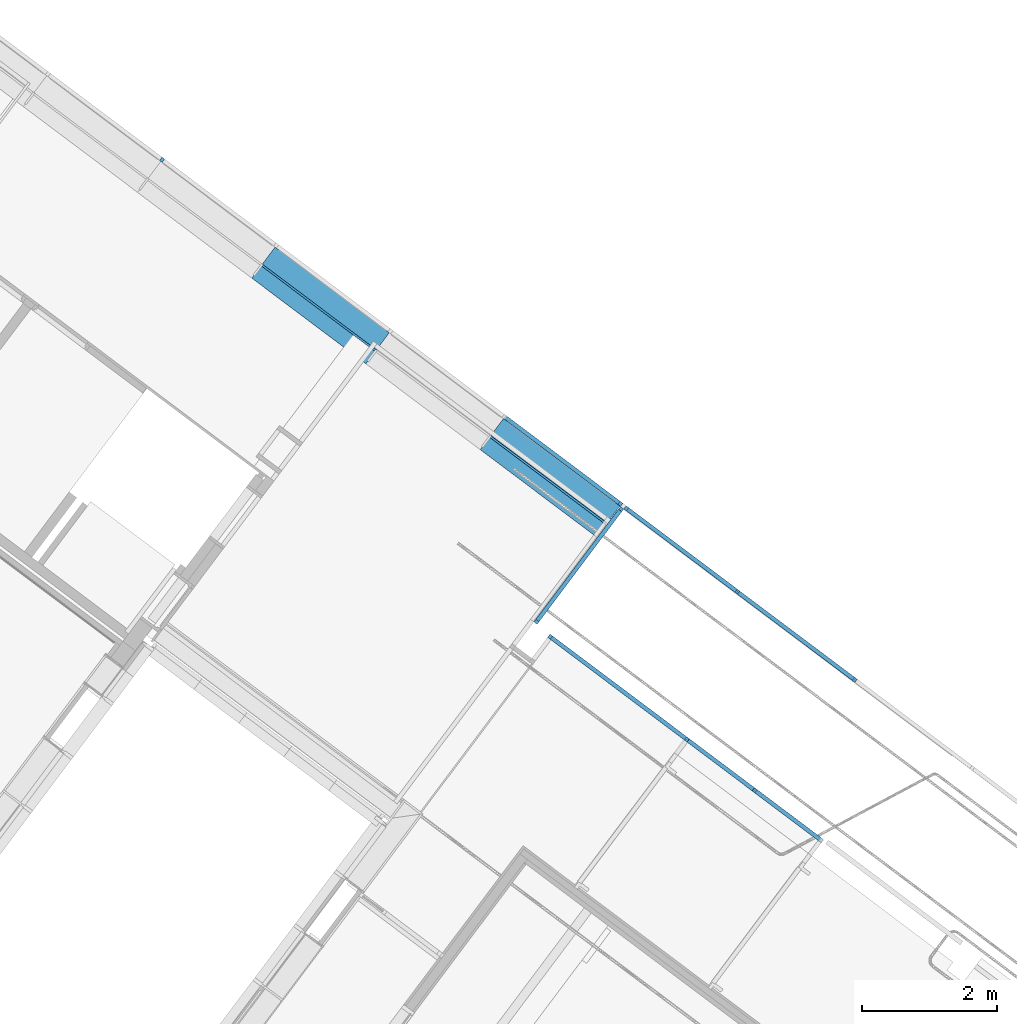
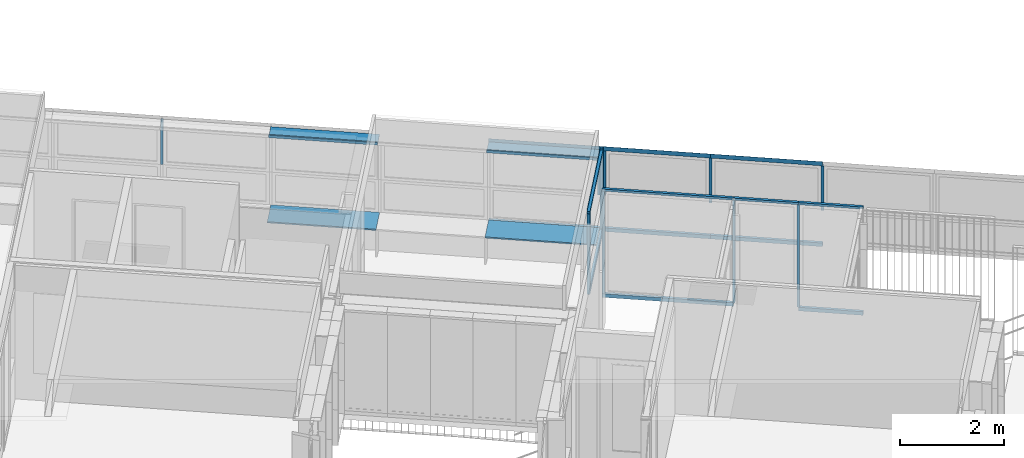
# One storey, part 70 of 243: 27 members, 5 elements without a shape of their own.
"""IFC2X3 building model written with IfcOpenShell, lengths in metres."""

from ifc_helpers import new_model, entity, si_unit, converted_unit, derived_unit, direction, frame, frame_2d, origin, origin_2d_with_axis, place, context, subcontext, project, spatial, polyline, rectangle, outline, extrude, source, transform, mapped, material, type_object, type_shapes, element, aggregate, save


model = new_model("IFC2X3")

# Units and contexts
model_context = context("Model", 3, precision=1e-05, world=origin(), true_north=direction((6.123031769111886e-17, 1.0)))
body_context = subcontext(model_context, "Body", "Model", "MODEL_VIEW")
ifc_project = project(units=[si_unit("LENGTHUNIT", "METRE"), si_unit("AREAUNIT", "SQUARE_METRE"), si_unit("VOLUMEUNIT", "CUBIC_METRE"), converted_unit("PLANEANGLEUNIT", "DEGREE", entity("IfcRatioMeasure", 0.017453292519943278), si_unit("PLANEANGLEUNIT", "RADIAN"), dimensions=[0, 0, 0, 0, 0, 0, 0]), si_unit("MASSUNIT", "GRAM", prefix="KILO"), derived_unit("MASSDENSITYUNIT", [(si_unit("MASSUNIT", "GRAM", prefix="KILO"), 1), (si_unit("LENGTHUNIT", "METRE"), -3)]), derived_unit("IONCONCENTRATIONUNIT", [(si_unit("MASSUNIT", "GRAM", prefix="KILO"), 1), (si_unit("LENGTHUNIT", "METRE"), -3)]), derived_unit("MOMENTOFINERTIAUNIT", [(si_unit("LENGTHUNIT", "METRE"), 4)]), si_unit("TIMEUNIT", "SECOND"), si_unit("FREQUENCYUNIT", "HERTZ"), si_unit("THERMODYNAMICTEMPERATUREUNIT", "DEGREE_CELSIUS"), derived_unit("THERMALTRANSMITTANCEUNIT", [(si_unit("MASSUNIT", "GRAM", prefix="KILO"), 1), (si_unit("THERMODYNAMICTEMPERATUREUNIT", "KELVIN"), -1), (si_unit("TIMEUNIT", "SECOND"), -3)]), derived_unit("THERMALCONDUCTANCEUNIT", [(si_unit("MASSUNIT", "GRAM", prefix="KILO"), 1), (si_unit("THERMODYNAMICTEMPERATUREUNIT", "KELVIN"), -1), (si_unit("TIMEUNIT", "SECOND"), -3), (si_unit("LENGTHUNIT", "METRE"), 1)]), derived_unit("VOLUMETRICFLOWRATEUNIT", [(si_unit("LENGTHUNIT", "METRE"), 3), (si_unit("TIMEUNIT", "SECOND"), -1)]), derived_unit("MASSFLOWRATEUNIT", [(si_unit("MASSUNIT", "GRAM", prefix="KILO"), 1), (si_unit("TIMEUNIT", "SECOND"), -1)]), derived_unit("ROTATIONALFREQUENCYUNIT", [(si_unit("TIMEUNIT", "SECOND"), -1)]), si_unit("ELECTRICCURRENTUNIT", "AMPERE"), si_unit("ELECTRICVOLTAGEUNIT", "VOLT"), si_unit("POWERUNIT", "WATT"), si_unit("FORCEUNIT", "NEWTON", prefix="KILO"), si_unit("ILLUMINANCEUNIT", "LUX"), si_unit("LUMINOUSFLUXUNIT", "LUMEN"), si_unit("LUMINOUSINTENSITYUNIT", "CANDELA"), derived_unit("USERDEFINED", [(si_unit("MASSUNIT", "GRAM", prefix="KILO"), -1), (si_unit("LENGTHUNIT", "METRE"), -2), (si_unit("TIMEUNIT", "SECOND"), 3), (si_unit("LUMINOUSFLUXUNIT", "LUMEN"), 1)]), derived_unit("USERDEFINED", [(si_unit("MASSUNIT", "GRAM", prefix="KILO"), 1), (si_unit("TIMEUNIT", "SECOND"), -3), (si_unit("LENGTHUNIT", "METRE"), 3), (si_unit("ELECTRICCURRENTUNIT", "AMPERE"), -2)]), derived_unit("SOUNDPOWERUNIT", [(si_unit("MASSUNIT", "GRAM", prefix="KILO"), 1), (si_unit("TIMEUNIT", "SECOND"), -3), (si_unit("LENGTHUNIT", "METRE"), 2)]), derived_unit("SOUNDPRESSUREUNIT", [(si_unit("MASSUNIT", "GRAM", prefix="KILO"), 1), (si_unit("LENGTHUNIT", "METRE"), -1), (si_unit("TIMEUNIT", "SECOND"), -2)]), derived_unit("LINEARVELOCITYUNIT", [(si_unit("LENGTHUNIT", "METRE"), 1), (si_unit("TIMEUNIT", "SECOND"), -1)]), si_unit("PRESSUREUNIT", "PASCAL"), derived_unit("USERDEFINED", [(si_unit("MASSUNIT", "GRAM", prefix="KILO"), 1), (si_unit("LENGTHUNIT", "METRE"), -2), (si_unit("TIMEUNIT", "SECOND"), -2)]), derived_unit("LINEARFORCEUNIT", [(si_unit("MASSUNIT", "GRAM", prefix="KILO"), 1), (si_unit("TIMEUNIT", "SECOND"), -2)]), derived_unit("PLANARFORCEUNIT", [(si_unit("MASSUNIT", "GRAM", prefix="KILO"), 1), (si_unit("LENGTHUNIT", "METRE"), -1), (si_unit("TIMEUNIT", "SECOND"), -2)]), derived_unit("SPECIFICHEATCAPACITYUNIT", [(si_unit("THERMODYNAMICTEMPERATUREUNIT", "KELVIN"), -1), (si_unit("LENGTHUNIT", "METRE"), 2), (si_unit("TIMEUNIT", "SECOND"), -2)]), derived_unit("HEATINGVALUEUNIT", [(si_unit("LENGTHUNIT", "METRE"), 2), (si_unit("TIMEUNIT", "SECOND"), -2)]), derived_unit("VAPORPERMEABILITYUNIT", [(si_unit("LENGTHUNIT", "METRE"), -1), (si_unit("TIMEUNIT", "SECOND"), 1)]), derived_unit("DYNAMICVISCOSITYUNIT", [(si_unit("MASSUNIT", "GRAM", prefix="KILO"), 1), (si_unit("TIMEUNIT", "SECOND"), -1), (si_unit("LENGTHUNIT", "METRE"), -1)]), derived_unit("THERMALEXPANSIONCOEFFICIENTUNIT", [(si_unit("THERMODYNAMICTEMPERATUREUNIT", "KELVIN"), -1)]), derived_unit("MODULUSOFELASTICITYUNIT", [(si_unit("MASSUNIT", "GRAM", prefix="KILO"), 1), (si_unit("LENGTHUNIT", "METRE"), -1), (si_unit("TIMEUNIT", "SECOND"), -2)]), derived_unit("ISOTHERMALMOISTURECAPACITYUNIT", [(si_unit("LENGTHUNIT", "METRE"), 3), (si_unit("MASSUNIT", "GRAM", prefix="KILO"), -1)]), derived_unit("MOISTUREDIFFUSIVITYUNIT", [(si_unit("TIMEUNIT", "SECOND"), -1), (si_unit("LENGTHUNIT", "METRE"), 2)])], contexts=[model_context])

# Site, building, storey
site_placement = place(None, frame((0.0, 0.0, 235.0), z_axis=(0.0, 0.0, 1.0), x_axis=(-0.7996477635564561, 0.6004693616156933, 0.0)))
site = spatial("IfcSite", under=ifc_project, at=site_placement, Name="Default", CompositionType="ELEMENT")
building_placement = place(site_placement, origin())
building = spatial("IfcBuilding", under=site, at=building_placement, CompositionType="ELEMENT")
storey_placement = place(building_placement, origin())
storey = spatial("IfcBuildingStorey", under=building, at=storey_placement, Name="P0- Escola", CompositionType="ELEMENT", Elevation=0.0)

# Curtain wall, members
curtain_wall_type_1 = type_object("IfcCurtainWallType", Name="Muro cortina:MC- EXT- MC6", PredefinedType="NOTDEFINED")
curtain_wall_1_placement = place(storey_placement, origin())
curtain_wall_1 = element("IfcCurtainWall", 1, at=curtain_wall_1_placement, inside=storey, type_object=curtain_wall_type_1, Name="Muro cortina:MC- EXT- MC6", ObjectType="Muro cortina:MC- EXT- MC6")
ifc_material_1 = material(Name="_Alumini- T1- Perfil")
member_type_1 = type_object("IfcMemberType", Name="Montante rectangular:MC- Alu- 52x80 cm- Fa pista- inferior", PredefinedType="MULLION", material=ifc_material_1)
shared_shape_1 = source(origin(), body_context, "Body", "SweptSolid", [
    extrude(rectangle(XDim=0.06000000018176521, YDim=0.085, at=origin_2d_with_axis()), frame((-0.0425, -0.030000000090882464, -2.170995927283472), z_axis=(0.0, 0.0, 1.0), x_axis=(0.0, -1.0, 0.0)), (0.0, 0.0, 1.0), 2.170995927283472),
])
type_shapes(member_type_1, [shared_shape_1])
member_1_placement = place(curtain_wall_1_placement, frame((36.64514768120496, -42.34019175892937, 0.6000000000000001), z_axis=(-1.0, 0.0, 0.0), x_axis=(0.0, 0.0, -1.0)))
member_1 = element("IfcMember", 2, at=member_1_placement, type_object=member_type_1, material=ifc_material_1, Name="Montante rectangular:MC- Alu- 52x80 cm- Fa pista- inferior", ObjectType="Montante rectangular:MC- Alu- 52x80 cm- Fa pista- inferior", context=body_context, shape_type="MappedRepresentation", body=[
    mapped(shared_shape_1, transform((0.0, 0.0, 0.0), scale=1.0)),
])
member_type_2 = type_object("IfcMemberType", Name="Montante rectangular:MC- Alu- 50x60 cm- Fa pista- Centre", PredefinedType="MULLION", material=ifc_material_1)
shared_shape_2 = source(origin(), body_context, "Body", "SweptSolid", [
    extrude(rectangle(XDim=0.0600000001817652, YDim=0.05, at=frame_2d((-8.673617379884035e-18, 0.0), x_axis=(1.0, 0.0))), frame((-0.025, -0.030000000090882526, -1.0475000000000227), z_axis=(0.0, 0.0, 1.0), x_axis=(0.0, -1.0, 0.0)), (0.0, 0.0, 1.0), 1.0475000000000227),
])
type_shapes(member_type_2, [shared_shape_2])
member_2_placement = place(curtain_wall_1_placement, frame((36.64514768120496, -42.34019175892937, 2.502500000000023), z_axis=(0.0, 0.0, 1.0), x_axis=(-1.0, 0.0, 0.0)))
member_2 = element("IfcMember", 3, at=member_2_placement, type_object=member_type_2, material=ifc_material_1, Name="Montante rectangular:MC- Alu- 50x60 cm- Fa pista- Centre", ObjectType="Montante rectangular:MC- Alu- 50x60 cm- Fa pista- Centre", context=body_context, shape_type="MappedRepresentation", body=[
    mapped(shared_shape_2, transform((0.0, 0.0, 0.0), scale=1.0)),
])
member_type_3 = type_object("IfcMemberType", Name="Montante rectangular:MC- Alu- 140x52,5 cm- Fa pista- Superior", PredefinedType="MULLION", material=ifc_material_1)
shared_shape_3 = source(origin(), body_context, "Body", "SweptSolid", [
    extrude(outline(polyline([(-0.03933333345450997, -0.04916666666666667), (0.02066666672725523, -0.04916666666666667), (0.020666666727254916, 0.048333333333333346), (0.018666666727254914, 0.04833333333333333), (0.018666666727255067, 0.00083333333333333), (-0.03933333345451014, 0.00083333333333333), (-0.03933333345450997, -0.04916666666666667)])), frame((-0.048333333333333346, -0.03933333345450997, -2.170995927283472), z_axis=(0.0, 0.0, 1.0), x_axis=(0.0, -1.0, 0.0)), (0.0, 0.0, 1.0), 2.170995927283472),
])
type_shapes(member_type_3, [shared_shape_3])
member_3_placement = place(curtain_wall_1_placement, frame((38.81614360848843, -42.34019175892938, 2.6000000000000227), z_axis=(1.0, 0.0, 0.0), x_axis=(0.0, 0.0, 1.0)))
member_3 = element("IfcMember", 4, at=member_3_placement, type_object=member_type_3, material=ifc_material_1, Name="Montante rectangular:MC- Alu- 140x52,5 cm- Fa pista- Superior", ObjectType="Montante rectangular:MC- Alu- 140x52,5 cm- Fa pista- Superior", context=body_context, shape_type="MappedRepresentation", body=[
    mapped(shared_shape_3, transform((0.0, 0.0, 0.0), scale=1.0)),
])
member_type_4 = type_object("IfcMemberType", Name="Montante rectangular:MC- Alu- 50x60 cm- Fa pista- Centre", PredefinedType="MULLION", material=ifc_material_1)
shared_shape_4 = source(origin(), body_context, "Body", "SweptSolid", [
    extrude(rectangle(XDim=0.0600000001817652, YDim=0.05, at=frame_2d((8.673617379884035e-18, 0.0), x_axis=(1.0, 0.0))), frame((0.0, -0.030000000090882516, -1.0475000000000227), z_axis=(0.0, 0.0, 1.0), x_axis=(0.0, -1.0, 0.0)), (0.0, 0.0, 1.0), 1.0475000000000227),
])
type_shapes(member_type_4, [shared_shape_4])
member_4_placement = place(curtain_wall_1_placement, frame((45.167143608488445, -42.3401917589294, 1.455), z_axis=(0.0, 0.0, -1.0), x_axis=(1.0, 0.0, 0.0)))
member_4 = element("IfcMember", 5, at=member_4_placement, type_object=member_type_4, material=ifc_material_1, Name="Montante rectangular:MC- Alu- 50x60 cm- Fa pista- Centre", ObjectType="Montante rectangular:MC- Alu- 50x60 cm- Fa pista- Centre", context=body_context, shape_type="MappedRepresentation", body=[
    mapped(shared_shape_4, transform((0.0, 0.0, 0.0), scale=1.0)),
])
aggregate(curtain_wall_1, [member_1, member_2, member_3, member_4])

curtain_wall_2_placement = place(storey_placement, origin())
curtain_wall_2 = element("IfcCurtainWall", 6, at=curtain_wall_2_placement, inside=storey, type_object=curtain_wall_type_1, Name="Muro cortina:MC- EXT- MC6", ObjectType="Muro cortina:MC- EXT- MC6")
member_type_5 = type_object("IfcMemberType", Name="Montante rectangular:MC- Alu- 140x52,5 cm- Fa pista- Superior", PredefinedType="MULLION", material=ifc_material_1)
shared_shape_5 = source(origin(), body_context, "Body", "SweptSolid", [
    extrude(outline(polyline([(-0.02066666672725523, -0.04916666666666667), (0.03933333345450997, -0.04916666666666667), (0.039333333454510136, 0.00083333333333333), (-0.018666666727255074, 0.00083333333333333), (-0.01866666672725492, 0.04833333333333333), (-0.020666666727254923, 0.048333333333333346), (-0.02066666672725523, -0.04916666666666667)])), frame((-0.048333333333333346, 0.03933333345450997, -2.089999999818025), z_axis=(0.0, 0.0, 1.0), x_axis=(0.0, -1.0, 0.0)), (0.0, 0.0, 1.0), 2.089999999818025),
])
type_shapes(member_type_5, [shared_shape_5])
member_5_placement = place(curtain_wall_2_placement, frame((36.5851476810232, -40.14019175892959, 2.6000000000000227), z_axis=(0.0, 1.0, 0.0), x_axis=(0.0, 0.0, 1.0)))
member_5 = element("IfcMember", 7, at=member_5_placement, type_object=member_type_5, material=ifc_material_1, Name="Montante rectangular:MC- Alu- 140x52,5 cm- Fa pista- Superior", ObjectType="Montante rectangular:MC- Alu- 140x52,5 cm- Fa pista- Superior", context=body_context, shape_type="MappedRepresentation", body=[
    mapped(shared_shape_5, transform((0.0, 0.0, 0.0), scale=1.0)),
])
member_type_6 = type_object("IfcMemberType", Name="Montante rectangular:MC- Alu- 52x80 cm- Fa pista- inferior", PredefinedType="MULLION", material=ifc_material_1)
shared_shape_6 = source(origin(), body_context, "Body", "SweptSolid", [
    extrude(rectangle(XDim=0.06000000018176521, YDim=0.08500000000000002, at=frame_2d((-5.204170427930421e-18, -6.938893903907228e-18), x_axis=(1.0, 0.0))), frame((-0.0425, 0.030000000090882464, -2.0399999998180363), z_axis=(0.0, 0.0, 1.0), x_axis=(0.0, -1.0, 0.0)), (0.0, 0.0, 1.0), 2.0399999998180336),
])
type_shapes(member_type_6, [shared_shape_6])
member_6_placement = place(curtain_wall_2_placement, frame((36.585147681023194, -42.230191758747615, 0.6000000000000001), z_axis=(0.0, -1.0, 0.0), x_axis=(0.0, 0.0, -1.0)))
member_6 = element("IfcMember", 8, at=member_6_placement, type_object=member_type_6, material=ifc_material_1, Name="Montante rectangular:MC- Alu- 52x80 cm- Fa pista- inferior", ObjectType="Montante rectangular:MC- Alu- 52x80 cm- Fa pista- inferior", context=body_context, shape_type="MappedRepresentation", body=[
    mapped(shared_shape_6, transform((0.0, 0.0, 0.0), scale=1.0)),
])
member_type_7 = type_object("IfcMemberType", Name="Montante rectangular:MC- Alu- 50x60 cm- Fa pista- Centre", PredefinedType="MULLION", material=ifc_material_1)
shared_shape_7 = source(origin(), body_context, "Body", "SweptSolid", [
    extrude(rectangle(XDim=0.060000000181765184, YDim=0.05, at=frame_2d((3.469446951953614e-18, 0.0), x_axis=(1.0, 0.0))), frame((-0.025, 0.030000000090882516, -1.902500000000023), z_axis=(0.0, 0.0, 1.0), x_axis=(0.0, -1.0, 0.0)), (0.0, 0.0, 1.0), 1.902500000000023),
])
type_shapes(member_type_7, [shared_shape_7])
member_7_placement = place(curtain_wall_2_placement, frame((36.5851476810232, -40.14019175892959, 0.6000000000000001), z_axis=(0.0, 0.0, -1.0), x_axis=(0.0, 1.0, 0.0)))
member_7 = element("IfcMember", 9, at=member_7_placement, type_object=member_type_7, material=ifc_material_1, Name="Montante rectangular:MC- Alu- 50x60 cm- Fa pista- Centre", ObjectType="Montante rectangular:MC- Alu- 50x60 cm- Fa pista- Centre", context=body_context, shape_type="MappedRepresentation", body=[
    mapped(shared_shape_7, transform((0.0, 0.0, 0.0), scale=1.0)),
])
member_type_8 = type_object("IfcMemberType", Name="Montante rectangular:MC- Alu- 50x60 cm- Fa pista- Centre", PredefinedType="MULLION", material=ifc_material_1)
shared_shape_8 = source(origin(), body_context, "Body", "SweptSolid", [
    extrude(rectangle(XDim=0.06000000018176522, YDim=0.05, at=origin_2d_with_axis()), frame((-0.025, 0.03000000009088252, -2.0), z_axis=(0.0, 0.0, 1.0), x_axis=(0.0, -1.0, 0.0)), (0.0, 0.0, 1.0), 2.000000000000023),
])
type_shapes(member_type_8, [shared_shape_8])
member_8_placement = place(curtain_wall_2_placement, frame((36.585147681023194, -42.28019175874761, 2.6000000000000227), z_axis=(0.0, 0.0, 1.0), x_axis=(0.0, -1.0, 0.0)))
member_8 = element("IfcMember", 10, at=member_8_placement, type_object=member_type_8, material=ifc_material_1, Name="Montante rectangular:MC- Alu- 50x60 cm- Fa pista- Centre", ObjectType="Montante rectangular:MC- Alu- 50x60 cm- Fa pista- Centre", context=body_context, shape_type="MappedRepresentation", body=[
    mapped(shared_shape_8, transform((0.0, 0.0, 0.0), scale=1.0)),
])
aggregate(curtain_wall_2, [member_5, member_6, member_7, member_8])

curtain_wall_type_2 = type_object("IfcCurtainWallType", PredefinedType="NOTDEFINED")
curtain_wall_3_placement = place(storey_placement, origin())
curtain_wall_3 = element("IfcCurtainWall", 11, at=curtain_wall_3_placement, inside=storey, type_object=curtain_wall_type_2)
member_type_9 = type_object("IfcMemberType", Name="Montante rectangular:MC- Alu- 140x52,5 cm- Fa pista- Superior simple", PredefinedType="MULLION", material=ifc_material_1)
shared_shape_9 = source(origin(), body_context, "Body", "SweptSolid", [
    extrude(rectangle(XDim=0.0600000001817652, YDim=0.05, at=frame_2d((5.204170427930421e-18, 0.0), x_axis=(1.0, 0.0))), frame((-0.025, 0.030000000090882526, -1.2575000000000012), z_axis=(0.0, 0.0, 1.0), x_axis=(0.0, -1.0, 0.0)), (0.0, 0.0, 1.0), 1.2575),
])
type_shapes(member_type_9, [shared_shape_9])
member_9_placement = place(curtain_wall_3_placement, frame((31.270143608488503, -40.14019175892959, 3.1500000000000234), z_axis=(-1.0, 0.0, 0.0), x_axis=(0.0, 0.0, 1.0)))
member_9 = element("IfcMember", 12, at=member_9_placement, type_object=member_type_9, material=ifc_material_1, Name="Montante rectangular:MC- Alu- 140x52,5 cm- Fa pista- Superior simple", ObjectType="Montante rectangular:MC- Alu- 140x52,5 cm- Fa pista- Superior simple", context=body_context, shape_type="MappedRepresentation", body=[
    mapped(shared_shape_9, transform((0.0, 0.0, 0.0), scale=1.0)),
])
member_type_10 = type_object("IfcMemberType", Name="Montante rectangular:MC- Alu- 52x80 cm- Fa pista- inferior", PredefinedType="MULLION", material=ifc_material_1)
shared_shape_10 = source(origin(), body_context, "Body", "SweptSolid", [
    extrude(rectangle(XDim=0.06000000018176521, YDim=0.08500000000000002, at=frame_2d((-5.204170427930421e-18, -6.938893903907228e-18), x_axis=(1.0, 0.0))), frame((-0.0425, 0.030000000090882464, -2.5600040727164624), z_axis=(0.0, 0.0, 1.0), x_axis=(0.0, -1.0, 0.0)), (0.0, 0.0, 1.0), 2.5600040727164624),
])
type_shapes(member_type_10, [shared_shape_10])
member_10_placement = place(curtain_wall_3_placement, frame((36.34514768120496, -40.14019175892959, 0.6000000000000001), z_axis=(1.0, 0.0, 0.0), x_axis=(0.0, 0.0, -1.0)))
member_10 = element("IfcMember", 13, at=member_10_placement, type_object=member_type_10, material=ifc_material_1, Name="Montante rectangular:MC- Alu- 52x80 cm- Fa pista- inferior", ObjectType="Montante rectangular:MC- Alu- 52x80 cm- Fa pista- inferior", context=body_context, shape_type="MappedRepresentation", body=[
    mapped(shared_shape_10, transform((0.0, 0.0, 0.0), scale=1.0)),
])
member_type_11 = type_object("IfcMemberType", Name="Montante rectangular:MC- Alu- 50x60 cm- Fa pista- Centre", PredefinedType="MULLION", material=ifc_material_1)
shared_shape_11 = source(origin(), body_context, "Body", "SweptSolid", [
    extrude(rectangle(XDim=0.06000000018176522, YDim=0.05, at=frame_2d((-3.469446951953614e-18, 0.0), x_axis=(1.0, 0.0))), frame((-0.025, 0.030000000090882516, -2.415000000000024), z_axis=(0.0, 0.0, 1.0), x_axis=(0.0, -1.0, 0.0)), (0.0, 0.0, 1.0), 2.415000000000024),
])
type_shapes(member_type_11, [shared_shape_11])
member_11_placement = place(curtain_wall_3_placement, frame((36.34514768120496, -40.14019175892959, 3.100000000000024)))
member_11 = element("IfcMember", 14, at=member_11_placement, type_object=member_type_11, material=ifc_material_1, Name="Montante rectangular:MC- Alu- 50x60 cm- Fa pista- Centre", ObjectType="Montante rectangular:MC- Alu- 50x60 cm- Fa pista- Centre", context=body_context, shape_type="MappedRepresentation", body=[
    mapped(shared_shape_11, transform((0.0, 0.0, 0.0), scale=1.0)),
])
member_type_12 = type_object("IfcMemberType", Name="Montante rectangular:MC- Alu- 140x52,5 cm- Fa pista- Superior simple", PredefinedType="MULLION", material=ifc_material_1)
shared_shape_12 = source(origin(), body_context, "Body", "SweptSolid", [
    extrude(rectangle(XDim=0.0600000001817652, YDim=0.05, at=frame_2d((5.204170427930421e-18, 0.0), x_axis=(1.0, 0.0))), frame((-0.025, 0.030000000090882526, -2.560004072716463), z_axis=(0.0, 0.0, 1.0), x_axis=(0.0, -1.0, 0.0)), (0.0, 0.0, 1.0), 2.560004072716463),
])
type_shapes(member_type_12, [shared_shape_12])
member_12_placement = place(curtain_wall_3_placement, frame((33.785143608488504, -40.14019175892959, 3.150000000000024), z_axis=(-1.0, 0.0, 0.0), x_axis=(0.0, 0.0, 1.0)))
member_12 = element("IfcMember", 15, at=member_12_placement, type_object=member_type_12, material=ifc_material_1, Name="Montante rectangular:MC- Alu- 140x52,5 cm- Fa pista- Superior simple", ObjectType="Montante rectangular:MC- Alu- 140x52,5 cm- Fa pista- Superior simple", context=body_context, shape_type="MappedRepresentation", body=[
    mapped(shared_shape_12, transform((0.0, 0.0, 0.0), scale=1.0)),
])
member_type_13 = type_object("IfcMemberType", Name="Montante rectangular:MC- Alu- 50x60 cm- Fa pista- Centre", PredefinedType="MULLION", material=ifc_material_1)
shared_shape_13 = source(origin(), body_context, "Body", "SweptSolid", [
    extrude(rectangle(XDim=0.060000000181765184, YDim=0.05, at=frame_2d((3.469446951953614e-18, 0.0), x_axis=(1.0, 0.0))), frame((0.0, 0.030000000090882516, -2.4150000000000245), z_axis=(0.0, 0.0, 1.0), x_axis=(0.0, -1.0, 0.0)), (0.0, 0.0, 1.0), 2.4150000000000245),
])
type_shapes(member_type_13, [shared_shape_13])
member_13_placement = place(curtain_wall_3_placement, frame((33.785143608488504, -40.14019175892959, 0.6849999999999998), z_axis=(0.0, 0.0, -1.0), x_axis=(-1.0, 0.0, 0.0)))
member_13 = element("IfcMember", 16, at=member_13_placement, type_object=member_type_13, material=ifc_material_1, Name="Montante rectangular:MC- Alu- 50x60 cm- Fa pista- Centre", ObjectType="Montante rectangular:MC- Alu- 50x60 cm- Fa pista- Centre", context=body_context, shape_type="MappedRepresentation", body=[
    mapped(shared_shape_13, transform((0.0, 0.0, 0.0), scale=1.0)),
])
member_14_placement = place(curtain_wall_3_placement, frame((32.5276436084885, -40.14019175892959, 0.6849999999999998), z_axis=(0.0, 0.0, -1.0), x_axis=(-1.0, 0.0, 0.0)))
member_14 = element("IfcMember", 17, at=member_14_placement, type_object=member_type_13, material=ifc_material_1, Name="Montante rectangular:MC- Alu- 50x60 cm- Fa pista- Centre", ObjectType="Montante rectangular:MC- Alu- 50x60 cm- Fa pista- Centre", context=body_context, shape_type="MappedRepresentation", body=[
    mapped(shared_shape_13, transform((0.0, 0.0, 0.0), scale=1.0)),
])
member_type_14 = type_object("IfcMemberType", Name="Montante rectangular:MC- Alu- 140x52,5 cm- Fa pista- Superior simple", PredefinedType="MULLION", material=ifc_material_1)
shared_shape_14 = source(origin(), body_context, "Body", "SweptSolid", [
    extrude(rectangle(XDim=0.0600000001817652, YDim=0.05, at=frame_2d((5.204170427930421e-18, 0.0), x_axis=(1.0, 0.0))), frame((-0.025, 0.030000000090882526, -1.2575), z_axis=(0.0, 0.0, 1.0), x_axis=(0.0, -1.0, 0.0)), (0.0, 0.0, 1.0), 1.2575),
])
type_shapes(member_type_14, [shared_shape_14])
member_15_placement = place(curtain_wall_3_placement, frame((32.5276436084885, -40.14019175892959, 3.150000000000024), z_axis=(-1.0, 0.0, 0.0), x_axis=(0.0, 0.0, 1.0)))
member_15 = element("IfcMember", 18, at=member_15_placement, type_object=member_type_14, material=ifc_material_1, Name="Montante rectangular:MC- Alu- 140x52,5 cm- Fa pista- Superior simple", ObjectType="Montante rectangular:MC- Alu- 140x52,5 cm- Fa pista- Superior simple", context=body_context, shape_type="MappedRepresentation", body=[
    mapped(shared_shape_14, transform((0.0, 0.0, 0.0), scale=1.0)),
])
member_type_15 = type_object("IfcMemberType", Name="Montante rectangular:MC- Alu- 52x80 cm- Fa pista- inferior", PredefinedType="MULLION", material=ifc_material_1)
shared_shape_15 = source(origin(), body_context, "Body", "SweptSolid", [
    extrude(rectangle(XDim=0.06000000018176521, YDim=0.08500000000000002, at=frame_2d((-5.204170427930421e-18, -6.938893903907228e-18), x_axis=(1.0, 0.0))), frame((-0.0425, 0.030000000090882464, -1.2575), z_axis=(0.0, 0.0, 1.0), x_axis=(0.0, -1.0, 0.0)), (0.0, 0.0, 1.0), 1.2575),
])
type_shapes(member_type_15, [shared_shape_15])
member_16_placement = place(curtain_wall_3_placement, frame((32.5276436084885, -40.14019175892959, 0.5999999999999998), z_axis=(1.0, 0.0, 0.0), x_axis=(0.0, 0.0, -1.0)))
member_16 = element("IfcMember", 19, at=member_16_placement, type_object=member_type_15, material=ifc_material_1, Name="Montante rectangular:MC- Alu- 52x80 cm- Fa pista- inferior", ObjectType="Montante rectangular:MC- Alu- 52x80 cm- Fa pista- inferior", context=body_context, shape_type="MappedRepresentation", body=[
    mapped(shared_shape_15, transform((0.0, 0.0, 0.0), scale=1.0)),
])
aggregate(curtain_wall_3, [member_9, member_10, member_11, member_12, member_13, member_15, member_16, member_14])

curtain_wall_type_3 = type_object("IfcCurtainWallType", Name="Muro cortina:MC- EXT- MC9", PredefinedType="NOTDEFINED")
curtain_wall_4_placement = place(storey_placement, origin())
curtain_wall_4 = element("IfcCurtainWall", 20, at=curtain_wall_4_placement, inside=storey, type_object=curtain_wall_type_3, Name="Muro cortina:MC- EXT- MC9", ObjectType="Muro cortina:MC- EXT- MC9")
member_type_16 = type_object("IfcMemberType", Name="Montante rectangular:MC- Alu- 140x52,5 cm- Fa pista- Superior", PredefinedType="MULLION", material=ifc_material_1)
shared_shape_16 = source(origin(), body_context, "Body", "SweptSolid", [
    extrude(outline(polyline([(-0.03933333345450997, -0.04916666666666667), (0.02066666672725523, -0.04916666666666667), (0.020666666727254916, 0.048333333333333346), (0.018666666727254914, 0.04833333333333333), (0.018666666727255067, 0.00083333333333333), (-0.03933333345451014, 0.00083333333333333), (-0.03933333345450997, -0.04916666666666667)])), frame((-0.048333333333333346, -0.03933333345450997, -2.083004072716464), z_axis=(0.0, 0.0, 1.0), x_axis=(0.0, -1.0, 0.0)), (0.0, 0.0, 1.0), 2.0830040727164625),
])
type_shapes(member_type_16, [shared_shape_16])
member_17_placement = place(curtain_wall_4_placement, frame((36.5851476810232, -42.34019175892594, 2.6000000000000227), z_axis=(1.0, 0.0, 0.0), x_axis=(0.0, 0.0, 1.0)))
member_17 = element("IfcMember", 21, at=member_17_placement, type_object=member_type_16, material=ifc_material_1, Name="Montante rectangular:MC- Alu- 140x52,5 cm- Fa pista- Superior", ObjectType="Montante rectangular:MC- Alu- 140x52,5 cm- Fa pista- Superior", context=body_context, shape_type="MappedRepresentation", body=[
    mapped(shared_shape_16, transform((0.0, 0.0, 0.0), scale=1.0)),
])
member_type_17 = type_object("IfcMemberType", Name="Montante rectangular:MC- Alu- 52x80 cm- Fa pista- inferior", PredefinedType="MULLION", material=ifc_material_1)
shared_shape_17 = source(origin(), body_context, "Body", "SweptSolid", [
    extrude(rectangle(XDim=0.06000000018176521, YDim=0.085, at=origin_2d_with_axis()), frame((-0.0425, -0.030000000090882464, -2.1769999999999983), z_axis=(0.0, 0.0, 1.0), x_axis=(0.0, -1.0, 0.0)), (0.0, 0.0, 1.0), 2.1769999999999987),
])
type_shapes(member_type_17, [shared_shape_17])
member_18_placement = place(curtain_wall_4_placement, frame((32.32514360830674, -42.340191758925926, 0.6000000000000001), z_axis=(-1.0, 0.0, 0.0), x_axis=(0.0, 0.0, -1.0)))
member_18 = element("IfcMember", 22, at=member_18_placement, type_object=member_type_17, material=ifc_material_1, Name="Montante rectangular:MC- Alu- 52x80 cm- Fa pista- inferior", ObjectType="Montante rectangular:MC- Alu- 52x80 cm- Fa pista- inferior", context=body_context, shape_type="MappedRepresentation", body=[
    mapped(shared_shape_17, transform((0.0, 0.0, 0.0), scale=1.0)),
])
member_type_18 = type_object("IfcMemberType", Name="Montante rectangular:MC- Alu- 140x52,5 cm- Fa pista- Superior", PredefinedType="MULLION", material=ifc_material_1)
shared_shape_18 = source(origin(), body_context, "Body", "SweptSolid", [
    extrude(outline(polyline([(-0.03933333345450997, -0.04916666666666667), (0.02066666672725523, -0.04916666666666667), (0.020666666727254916, 0.048333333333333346), (0.018666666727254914, 0.04833333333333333), (0.018666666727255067, 0.00083333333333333), (-0.03933333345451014, 0.00083333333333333), (-0.03933333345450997, -0.04916666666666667)])), frame((-0.048333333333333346, -0.03933333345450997, -2.176999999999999), z_axis=(0.0, 0.0, 1.0), x_axis=(0.0, -1.0, 0.0)), (0.0, 0.0, 1.0), 2.1769999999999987),
])
type_shapes(member_type_18, [shared_shape_18])
member_19_placement = place(curtain_wall_4_placement, frame((34.50214360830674, -42.34019175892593, 2.6000000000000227), z_axis=(1.0, 0.0, 0.0), x_axis=(0.0, 0.0, 1.0)))
member_19 = element("IfcMember", 23, at=member_19_placement, type_object=member_type_18, material=ifc_material_1, Name="Montante rectangular:MC- Alu- 140x52,5 cm- Fa pista- Superior", ObjectType="Montante rectangular:MC- Alu- 140x52,5 cm- Fa pista- Superior", context=body_context, shape_type="MappedRepresentation", body=[
    mapped(shared_shape_18, transform((0.0, 0.0, 0.0), scale=1.0)),
])
member_type_19 = type_object("IfcMemberType", Name="Montante rectangular:MC- Alu- 52x80 cm- Fa pista- inferior", PredefinedType="MULLION", material=ifc_material_1)
shared_shape_19 = source(origin(), body_context, "Body", "SweptSolid", [
    extrude(rectangle(XDim=0.06000000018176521, YDim=0.085, at=origin_2d_with_axis()), frame((-0.0425, -0.030000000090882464, -2.0830040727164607), z_axis=(0.0, 0.0, 1.0), x_axis=(0.0, -1.0, 0.0)), (0.0, 0.0, 1.0), 2.0830040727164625),
])
type_shapes(member_type_19, [shared_shape_19])
member_20_placement = place(curtain_wall_4_placement, frame((34.50214360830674, -42.34019175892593, 0.6000000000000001), z_axis=(-1.0, 0.0, 0.0), x_axis=(0.0, 0.0, -1.0)))
member_20 = element("IfcMember", 24, at=member_20_placement, type_object=member_type_19, material=ifc_material_1, Name="Montante rectangular:MC- Alu- 52x80 cm- Fa pista- inferior", ObjectType="Montante rectangular:MC- Alu- 52x80 cm- Fa pista- inferior", context=body_context, shape_type="MappedRepresentation", body=[
    mapped(shared_shape_19, transform((0.0, 0.0, 0.0), scale=1.0)),
])
member_type_20 = type_object("IfcMemberType", Name="Montante rectangular:MC- Alu- 50x60 cm- Fa pista- Centre", PredefinedType="MULLION", material=ifc_material_1)
shared_shape_20 = source(origin(), body_context, "Body", "SweptSolid", [
    extrude(rectangle(XDim=0.06000000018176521, YDim=0.05, at=frame_2d((3.469446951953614e-18, 0.0), x_axis=(1.0, 0.0))), frame((-0.025, -0.030000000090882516, -1.052500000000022), z_axis=(0.0, 0.0, 1.0), x_axis=(0.0, -1.0, 0.0)), (0.0, 0.0, 1.0), 1.052500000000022),
])
type_shapes(member_type_20, [shared_shape_20])
member_21_placement = place(curtain_wall_4_placement, frame((36.5851476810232, -42.34019175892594, 1.4500000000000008), z_axis=(0.0, 0.0, -1.0), x_axis=(1.0, 0.0, 0.0)))
member_21 = element("IfcMember", 25, at=member_21_placement, type_object=member_type_20, material=ifc_material_1, Name="Montante rectangular:MC- Alu- 50x60 cm- Fa pista- Centre", ObjectType="Montante rectangular:MC- Alu- 50x60 cm- Fa pista- Centre", context=body_context, shape_type="MappedRepresentation", body=[
    mapped(shared_shape_20, transform((0.0, 0.0, 0.0), scale=1.0)),
])
member_type_21 = type_object("IfcMemberType", Name="Montante rectangular:MC- Alu- 50x60 cm- Fa pista- Centre", PredefinedType="MULLION", material=ifc_material_1)
shared_shape_21 = source(origin(), body_context, "Body", "SweptSolid", [
    extrude(rectangle(XDim=0.0600000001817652, YDim=0.05, at=frame_2d((8.673617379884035e-18, 0.0), x_axis=(1.0, 0.0))), frame((0.0, -0.030000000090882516, -1.052500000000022), z_axis=(0.0, 0.0, 1.0), x_axis=(0.0, -1.0, 0.0)), (0.0, 0.0, 1.0), 1.052500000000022),
])
type_shapes(member_type_21, [shared_shape_21])
member_22_placement = place(curtain_wall_4_placement, frame((32.32514360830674, -42.340191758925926, 1.4500000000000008), z_axis=(0.0, 0.0, -1.0), x_axis=(1.0, 0.0, 0.0)))
member_22 = element("IfcMember", 26, at=member_22_placement, type_object=member_type_21, material=ifc_material_1, Name="Montante rectangular:MC- Alu- 50x60 cm- Fa pista- Centre", ObjectType="Montante rectangular:MC- Alu- 50x60 cm- Fa pista- Centre", context=body_context, shape_type="MappedRepresentation", body=[
    mapped(shared_shape_21, transform((0.0, 0.0, 0.0), scale=1.0)),
])
member_23_placement = place(curtain_wall_4_placement, frame((34.50214360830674, -42.34019175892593, 1.4500000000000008), z_axis=(0.0, 0.0, -1.0), x_axis=(1.0, 0.0, 0.0)))
member_23 = element("IfcMember", 27, at=member_23_placement, type_object=member_type_21, material=ifc_material_1, Name="Montante rectangular:MC- Alu- 50x60 cm- Fa pista- Centre", ObjectType="Montante rectangular:MC- Alu- 50x60 cm- Fa pista- Centre", context=body_context, shape_type="MappedRepresentation", body=[
    mapped(shared_shape_21, transform((0.0, 0.0, 0.0), scale=1.0)),
])
aggregate(curtain_wall_4, [member_17, member_18, member_19, member_20, member_21, member_22, member_23])

curtain_wall_type_4 = type_object("IfcCurtainWallType", PredefinedType="NOTDEFINED")
curtain_wall_5_placement = place(storey_placement, origin())
curtain_wall_5 = element("IfcCurtainWall", 28, at=curtain_wall_5_placement, inside=storey, type_object=curtain_wall_type_4)
ifc_material_2 = material(Name="_Fusta massisa- T1")
member_type_22 = type_object("IfcMemberType", Name="Montante rectangular:MC- Fusta- 34x3 cm- Fa Pista- Remat Inferior", PredefinedType="MULLION", material=ifc_material_2)
shared_shape_22 = source(origin(), body_context, "Body", "SweptSolid", [
    extrude(outline(polyline([(0.018333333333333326, -0.015000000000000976), (0.2783333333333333, -0.015000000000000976), (0.27833333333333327, 0.015000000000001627), (-0.2966666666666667, 0.014999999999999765), (-0.29666666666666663, 0.0), (0.018333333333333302, 0.0), (0.018333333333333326, -0.015000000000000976)])), frame((0.015000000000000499, -0.046666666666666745, -2.1609959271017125), z_axis=(0.0, 0.0, 1.0), x_axis=(0.0, -1.0, 0.0)), (0.0, 0.0, 1.0), 2.160995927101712),
])
type_shapes(member_type_22, [shared_shape_22])
member_24_placement = place(curtain_wall_5_placement, frame((38.81614360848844, -42.030191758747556, 0.6550000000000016), z_axis=(1.0, 0.0, 0.0), x_axis=(0.0, 0.0, 1.0)))
member_24 = element("IfcMember", 29, at=member_24_placement, type_object=member_type_22, material=ifc_material_2, Name="Montante rectangular:MC- Fusta- 34x3 cm- Fa Pista- Remat Inferior", ObjectType="Montante rectangular:MC- Fusta- 34x3 cm- Fa Pista- Remat Inferior", context=body_context, shape_type="MappedRepresentation", body=[
    mapped(shared_shape_22, transform((0.0, 0.0, 0.0), scale=1.0)),
])
member_type_23 = type_object("IfcMemberType", Name="Montante rectangular:MC- Fusta- 34x3 cm- Fa Pista- Remat Superior", PredefinedType="MULLION", material=ifc_material_2)
shared_shape_23 = source(origin(), body_context, "Body", "SweptSolid", [
    extrude(outline(polyline([(-0.2199999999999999, -0.02666666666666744), (0.12500000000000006, -0.02666666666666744), (0.12499999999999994, 0.03333333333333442), (0.09499999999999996, 0.03333333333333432), (0.09499999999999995, -0.0066666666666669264), (-0.21999999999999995, -0.006666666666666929), (-0.2199999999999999, -0.02666666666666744)])), frame((-0.033333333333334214, 0.029999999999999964, -2.1169999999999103), z_axis=(0.0, 0.0, 1.0), x_axis=(0.0, -1.0, 0.0)), (0.0, 0.0, 1.0), 2.116999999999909),
])
type_shapes(member_type_23, [shared_shape_23])
member_25_placement = place(curtain_wall_5_placement, frame((43.05014360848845, -42.03019175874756, 2.565), z_axis=(1.0, 0.0, 0.0), x_axis=(0.0, 0.0, 1.0)))
member_25 = element("IfcMember", 30, at=member_25_placement, type_object=member_type_23, material=ifc_material_2, Name="Montante rectangular:MC- Fusta- 34x3 cm- Fa Pista- Remat Superior", ObjectType="Montante rectangular:MC- Fusta- 34x3 cm- Fa Pista- Remat Superior", context=body_context, shape_type="MappedRepresentation", body=[
    mapped(shared_shape_23, transform((0.0, 0.0, 0.0), scale=1.0)),
])
member_type_24 = type_object("IfcMemberType", Name="Montante rectangular:MC- Fusta- 34x3 cm- Fa Pista- Remat Inferior", PredefinedType="MULLION", material=ifc_material_2)
shared_shape_24 = source(origin(), body_context, "Body", "SweptSolid", [
    extrude(outline(polyline([(0.018333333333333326, -0.015000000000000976), (0.2783333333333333, -0.015000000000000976), (0.27833333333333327, 0.015000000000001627), (-0.2966666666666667, 0.014999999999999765), (-0.29666666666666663, 0.0), (0.018333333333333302, 0.0), (0.018333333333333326, -0.015000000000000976)])), frame((0.015000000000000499, -0.046666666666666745, -2.1170000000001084), z_axis=(0.0, 0.0, 1.0), x_axis=(0.0, -1.0, 0.0)), (0.0, 0.0, 1.0), 2.117000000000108),
])
type_shapes(member_type_24, [shared_shape_24])
member_26_placement = place(curtain_wall_5_placement, frame((43.05014360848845, -42.03019175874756, 0.6550000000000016), z_axis=(1.0, 0.0, 0.0), x_axis=(0.0, 0.0, 1.0)))
member_26 = element("IfcMember", 31, at=member_26_placement, type_object=member_type_24, material=ifc_material_2, Name="Montante rectangular:MC- Fusta- 34x3 cm- Fa Pista- Remat Inferior", ObjectType="Montante rectangular:MC- Fusta- 34x3 cm- Fa Pista- Remat Inferior", context=body_context, shape_type="MappedRepresentation", body=[
    mapped(shared_shape_24, transform((0.0, 0.0, 0.0), scale=1.0)),
])
member_type_25 = type_object("IfcMemberType", Name="Montante rectangular:MC- Fusta- 34x3 cm- Fa Pista- Remat Superior", PredefinedType="MULLION", material=ifc_material_2)
shared_shape_25 = source(origin(), body_context, "Body", "SweptSolid", [
    extrude(outline(polyline([(-0.2199999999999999, -0.02666666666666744), (0.12500000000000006, -0.02666666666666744), (0.12499999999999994, 0.03333333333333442), (0.09499999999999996, 0.03333333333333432), (0.09499999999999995, -0.0066666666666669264), (-0.21999999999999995, -0.006666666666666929), (-0.2199999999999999, -0.02666666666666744)])), frame((-0.033333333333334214, 0.029999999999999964, -2.1609959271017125), z_axis=(0.0, 0.0, 1.0), x_axis=(0.0, -1.0, 0.0)), (0.0, 0.0, 1.0), 2.1609959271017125),
])
type_shapes(member_type_25, [shared_shape_25])
member_27_placement = place(curtain_wall_5_placement, frame((38.81614360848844, -42.030191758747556, 2.565), z_axis=(1.0, 0.0, 0.0), x_axis=(0.0, 0.0, 1.0)))
member_27 = element("IfcMember", 32, at=member_27_placement, type_object=member_type_25, material=ifc_material_2, Name="Montante rectangular:MC- Fusta- 34x3 cm- Fa Pista- Remat Superior", ObjectType="Montante rectangular:MC- Fusta- 34x3 cm- Fa Pista- Remat Superior", context=body_context, shape_type="MappedRepresentation", body=[
    mapped(shared_shape_25, transform((0.0, 0.0, 0.0), scale=1.0)),
])
aggregate(curtain_wall_5, [member_24, member_25, member_26, member_27])

save(model, "model.ifc")
